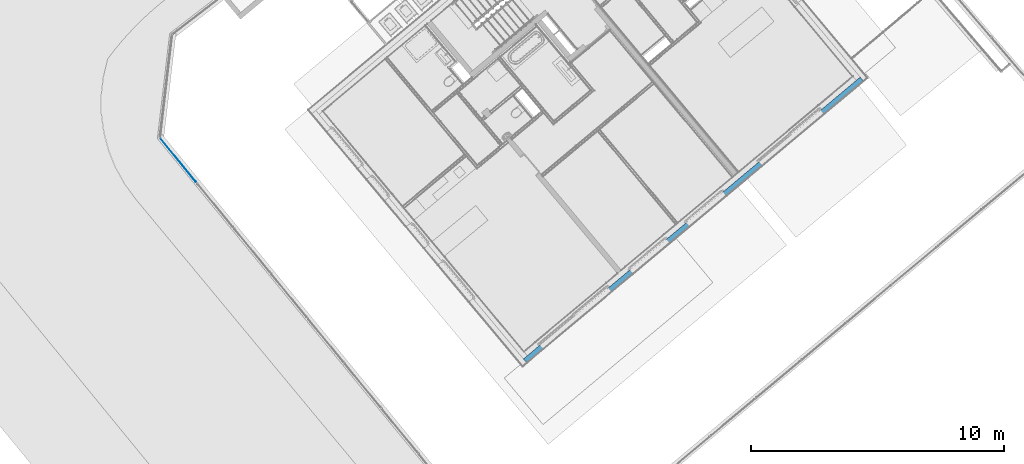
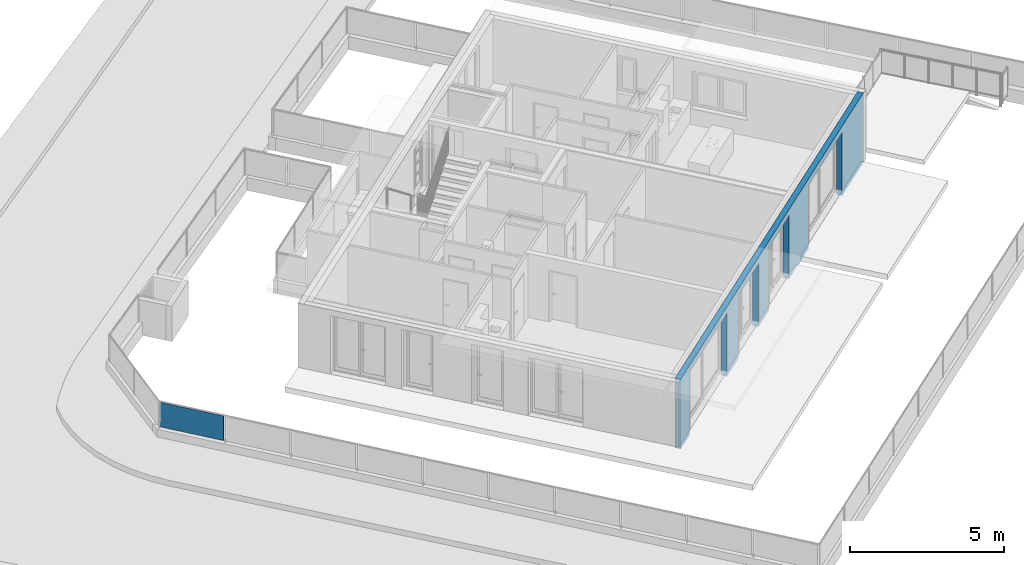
# One storey, part 26 of 75: 2 building element parts, 4 openings, 2 elements without a shape of their own.
"""IFC4 building model written with IfcOpenShell, lengths in metres."""

from ifc_helpers import new_model, entity, si_unit, converted_unit, derived_unit, direction, frame, origin_with_axes, place, context, subcontext, project, spatial, polygons, material, type_object, element, aggregate, save


model = new_model("IFC4")

# Units and contexts
model_context = context("Model", 3, precision=1e-05, world=origin_with_axes(), true_north=direction((0.0, 1.0)))
body_context = subcontext(model_context, "Body", "Model", "MODEL_VIEW")
ifc_project = project(units=[si_unit("LENGTHUNIT", "METRE"), si_unit("AREAUNIT", "SQUARE_METRE"), si_unit("VOLUMEUNIT", "CUBIC_METRE"), converted_unit("PLANEANGLEUNIT", "DEGREE", entity("IfcPlaneAngleMeasure", 0.0174532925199), si_unit("PLANEANGLEUNIT", "RADIAN"), dimensions=[0, 0, 0, 0, 0, 0, 0]), converted_unit("TIMEUNIT", "Year", entity("IfcTimeMeasure", 31556926.0), si_unit("TIMEUNIT", "SECOND"), dimensions=[0, 0, 1, 0, 0, 0, 0]), si_unit("MASSUNIT", "GRAM", prefix="KILO"), si_unit("THERMODYNAMICTEMPERATUREUNIT", "DEGREE_CELSIUS"), si_unit("LUMINOUSINTENSITYUNIT", "LUMEN"), si_unit("ENERGYUNIT", "JOULE", prefix="MEGA"), derived_unit("THERMALCONDUCTANCEUNIT", [(si_unit("POWERUNIT", "WATT"), 1), (si_unit("LENGTHUNIT", "METRE"), -1), (si_unit("THERMODYNAMICTEMPERATUREUNIT", "KELVIN"), -1)]), derived_unit("SPECIFICHEATCAPACITYUNIT", [(si_unit("ENERGYUNIT", "JOULE"), 1), (si_unit("MASSUNIT", "GRAM", prefix="KILO"), -1), (si_unit("THERMODYNAMICTEMPERATUREUNIT", "KELVIN"), -1)]), derived_unit("MASSDENSITYUNIT", [(si_unit("MASSUNIT", "GRAM", prefix="KILO"), 1), (si_unit("VOLUMEUNIT", "CUBIC_METRE"), -1)])], contexts=[model_context])

# Site, building, storey
site_placement = place(None, frame((-0.00153261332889, -0.00661245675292, 0.0), z_axis=(0.0, 0.0, 1.0), x_axis=(1.0, 0.0, 0.0)))
site = spatial("IfcSite", under=ifc_project, at=site_placement, Name="Gelände", CompositionType="ELEMENT")
building_placement = place(site_placement, origin_with_axes())
building = spatial("IfcBuilding", under=site, at=building_placement, Name="Gebäude", CompositionType="ELEMENT")
storey_placement = place(building_placement, frame((0.0, 0.0, -0.22), z_axis=(0.0, 0.0, 1.0), x_axis=(1.0, 0.0, 0.0)))
storey = spatial("IfcBuildingStorey", under=building, at=storey_placement, Name="EG", CompositionType="ELEMENT", Elevation=-0.22)

# Railing, building element part
railing_type = type_object("IfcRailingType", Name="Geländerart", PredefinedType="NOTDEFINED")
railing_placement = place(storey_placement, frame((-12.1608341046, 23.557810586, 0.523948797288), z_axis=(0.0, 0.0, 1.0), x_axis=(1.0, 0.0, 0.0)))
railing = element("IfcRailing", 1, at=railing_placement, inside=storey, type_object=railing_type, Name="Geländer - 001", PredefinedType="NOTDEFINED")
ifc_material_1 = material(Name="Zaun")
building_element_part_1_placement = place(railing_placement, origin_with_axes())
building_element_part_1 = element("IfcBuildingElementPart", 2, at=building_element_part_1_placement, material=ifc_material_1, Name="Zaun", PredefinedType="NOTDEFINED", context=body_context, shape_type="Tessellation", body=[
    polygons([(-0.936566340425, -7.37821512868, 0.05), (-2.32748216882, -5.67931828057, 0.05), (-2.32748216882, -5.67931828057, 1.03), (-0.936566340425, -7.37821512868, 1.03), (-2.34295725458, -5.69198799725, 0.05), (-0.952041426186, -7.39088484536, 0.05), (-2.34295725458, -5.69198799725, 1.03), (-0.952041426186, -7.39088484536, 1.03)], [[[1, 2, 3, 4]], [[5, 2, 1, 6]], [[7, 3, 2, 5]], [[4, 3, 7, 8]], [[1, 4, 8, 6]], [[7, 5, 6, 8]]], closed=True),
])
aggregate(railing, [building_element_part_1])

# Space
space_placement = place(storey_placement, frame((13.4528825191, 20.3252443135, 0.0), z_axis=(0.0, 0.0, 1.0), x_axis=(-0.766923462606, -0.641738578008, 0.0)))
space = spatial("IfcSpace", under=storey, at=space_placement, CompositionType="ELEMENT", PredefinedType="NOTDEFINED")

# Wall, openings, building element part
wall_type = type_object("IfcWallType", Name="AW EG 420", PredefinedType="NOTDEFINED")
wall_placement = place(space_placement, frame((0.0720764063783, 0.000238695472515, 0.0), z_axis=(0.0, 0.0, 1.0), x_axis=(0.999999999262, -3.84131433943e-05, 0.0)))
wall = element("IfcWall", 3, at=wall_placement, inside=space, type_object=wall_type, Name="Wand-002", PredefinedType="NOTDEFINED")
opening_1_placement = place(wall_placement, frame((14.9278241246, 0.0, 0.22), z_axis=(0.0, 0.0, 1.0), x_axis=(1.0, 0.0, 0.0)))
element("IfcOpeningElement", 4, at=opening_1_placement, cuts=wall, Name="Tür-001", context=body_context, identifier="Reference", shape_type="Tessellation", body=[
    polygons([(-1.76598893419, -0.215, -0.22), (-1.76598893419, -0.215, 2.31), (-1.76598893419, 8.73793494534, 2.31), (-1.76598893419, 8.73793494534, -0.22), (1.76598893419, -0.215, 2.31), (-1.81598893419, -0.215, -0.22), (-1.81598893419, -0.215, 2.36), (1.81598893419, -0.215, 2.36), (1.81598893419, -0.215, -0.22), (1.76598893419, -0.215, -0.22), (1.76598893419, 8.73793494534, 2.31), (1.76598893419, 8.73793494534, -0.22), (1.81598893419, -9.15793494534, -0.22), (-1.81598893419, -9.15793494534, -0.22), (-1.81598893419, -9.15793494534, 2.36), (1.81598893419, -9.15793494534, 2.36)], [[[1, 2, 3, 4]], [[5, 2, 1, 6, 7, 8, 9, 10]], [[2, 5, 11, 3]], [[11, 12, 4, 3]], [[1, 4, 12, 10, 9, 13, 14, 6]], [[7, 6, 14, 15]], [[8, 7, 15, 16]], [[9, 8, 16, 13]], [[5, 10, 12, 11]], [[15, 14, 13, 16]]], closed=True),
])
opening_2_placement = place(wall_placement, frame((3.83056216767, 0.0, 0.22), z_axis=(0.0, 0.0, 1.0), x_axis=(1.0, 0.0, 0.0)))
element("IfcOpeningElement", 5, at=opening_2_placement, cuts=wall, Name="Tür-001", context=body_context, identifier="Reference", shape_type="Tessellation", body=[
    polygons([(-1.59084421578, -0.215, -0.22), (-1.59084421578, -0.215, 2.31), (-1.59084421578, 8.73793494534, 2.31), (-1.59084421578, 8.73793494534, -0.22), (1.59084421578, -0.215, 2.31), (-1.64084421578, -0.215, -0.22), (-1.64084421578, -0.215, 2.36), (1.64084421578, -0.215, 2.36), (1.64084421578, -0.215, -0.22), (1.59084421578, -0.215, -0.22), (1.59084421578, 8.73793494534, 2.31), (1.59084421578, 8.73793494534, -0.22), (1.64084421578, -9.15793494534, -0.22), (-1.64084421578, -9.15793494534, -0.22), (-1.64084421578, -9.15793494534, 2.36), (1.64084421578, -9.15793494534, 2.36)], [[[1, 2, 3, 4]], [[5, 2, 1, 6, 7, 8, 9, 10]], [[2, 5, 11, 3]], [[11, 12, 4, 3]], [[1, 4, 12, 10, 9, 13, 14, 6]], [[7, 6, 14, 15]], [[8, 7, 15, 16]], [[9, 8, 16, 13]], [[5, 10, 12, 11]], [[15, 14, 13, 16]]], closed=True),
])
opening_3_placement = place(wall_placement, frame((11.1212452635, 0.0, 0.22), z_axis=(0.0, 0.0, 1.0), x_axis=(1.0, 0.0, 0.0)))
element("IfcOpeningElement", 6, at=opening_3_placement, cuts=wall, Name="Tür-002", context=body_context, identifier="Reference", shape_type="Tessellation", body=[
    polygons([(-0.95, -0.215, -0.22), (-0.95, -0.215, 2.31), (-0.95, 8.73793494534, 2.31), (-0.95, 8.73793494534, -0.22), (0.95, -0.215, 2.31), (-1.0, -0.215, -0.22), (-1.0, -0.215, 2.36), (1.0, -0.215, 2.36), (1.0, -0.215, -0.22), (0.95, -0.215, -0.22), (0.95, 8.73793494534, 2.31), (0.95, 8.73793494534, -0.22), (1.0, -9.15793494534, -0.22), (-1.0, -9.15793494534, -0.22), (-1.0, -9.15793494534, 2.36), (1.0, -9.15793494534, 2.36)], [[[1, 2, 3, 4]], [[5, 2, 1, 6, 7, 8, 9, 10]], [[2, 5, 11, 3]], [[11, 12, 4, 3]], [[1, 4, 12, 10, 9, 13, 14, 6]], [[7, 6, 14, 15]], [[8, 7, 15, 16]], [[9, 8, 16, 13]], [[5, 10, 12, 11]], [[15, 14, 13, 16]]], closed=True),
])
opening_4_placement = place(wall_placement, frame((8.21673950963, 0.0, 0.22), z_axis=(0.0, 0.0, 1.0), x_axis=(1.0, 0.0, 0.0)))
element("IfcOpeningElement", 7, at=opening_4_placement, cuts=wall, Name="Tür-002", context=body_context, identifier="Reference", shape_type="Tessellation", body=[
    polygons([(-0.95, -0.215, -0.22), (-0.95, -0.215, 2.31), (-0.95, 8.73793494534, 2.31), (-0.95, 8.73793494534, -0.22), (0.95, -0.215, 2.31), (-1.0, -0.215, -0.22), (-1.0, -0.215, 2.36), (1.0, -0.215, 2.36), (1.0, -0.215, -0.22), (0.95, -0.215, -0.22), (0.95, 8.73793494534, 2.31), (0.95, 8.73793494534, -0.22), (1.0, -9.15793494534, -0.22), (-1.0, -9.15793494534, -0.22), (-1.0, -9.15793494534, 2.36), (1.0, -9.15793494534, 2.36)], [[[1, 2, 3, 4]], [[5, 2, 1, 6, 7, 8, 9, 10]], [[2, 5, 11, 3]], [[11, 12, 4, 3]], [[1, 4, 12, 10, 9, 13, 14, 6]], [[7, 6, 14, 15]], [[8, 7, 15, 16]], [[9, 8, 16, 13]], [[5, 10, 12, 11]], [[15, 14, 13, 16]]], closed=True),
])
ifc_material_2 = material(Name="EPS 1")
building_element_part_2_placement = place(wall_placement, origin_with_axes())
building_element_part_2 = element("IfcBuildingElementPart", 8, at=building_element_part_2_placement, material=ifc_material_2, Name="EPS 1", PredefinedType="NOTDEFINED", context=body_context, shape_type="Tessellation", body=[
    polygons([(9.16673950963, -0.015, 0.0), (9.16673950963, -0.015, 2.53), (7.26673950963, -0.015, 2.53), (7.26673950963, -0.015, 0.0), (5.42140638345, -0.015, 0.0), (5.42140638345, -0.015, 2.53), (2.23971795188, -0.015, 2.53), (2.23971795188, -0.015, 0.0), (0.214990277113, -0.015, 0.0), (0.214990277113, -0.015, 2.76), (17.5373016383, -0.015, 2.76), (17.5373016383, -0.015, 0.0), (16.6938130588, -0.015, 0.0), (16.6938130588, -0.015, 2.53), (13.1618351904, -0.015, 2.53), (13.1618351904, -0.015, 0.0), (12.0712452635, -0.015, 0.0), (12.0712452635, -0.015, 2.53), (10.1712452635, -0.015, 2.53), (10.1712452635, -0.015, 0.0), (9.16673950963, -0.215, 0.0), (9.16673950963, -0.215, 2.53), (7.26673950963, -0.215, 2.53), (7.26673950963, -0.215, 0.0), (5.42140638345, -0.215, 0.0), (5.42140638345, -0.215, 2.53), (2.23971795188, -0.215, 2.53), (2.23971795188, -0.215, 0.0), (0.214860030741, -0.215, 0.0), (0.214860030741, -0.215, 2.76), (17.5371713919, -0.215, 2.76), (17.5371713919, -0.215, 0.0), (16.6938130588, -0.215, 0.0), (16.6938130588, -0.215, 2.53), (13.1618351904, -0.215, 2.53), (13.1618351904, -0.215, 0.0), (12.0712452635, -0.215, 0.0), (12.0712452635, -0.215, 2.53), (10.1712452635, -0.215, 2.53), (10.1712452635, -0.215, 0.0)], [[[1, 2, 3, 4, 5, 6, 7, 8, 9, 10, 11, 12, 13, 14, 15, 16, 17, 18, 19, 20]], [[2, 1, 21, 22]], [[3, 2, 22, 23]], [[4, 3, 23, 24]], [[4, 24, 25, 5]], [[25, 26, 6, 5]], [[26, 27, 7, 6]], [[27, 28, 8, 7]], [[29, 9, 8, 28]], [[29, 30, 10, 9]], [[31, 11, 10, 30]], [[11, 31, 32, 12]], [[32, 33, 13, 12]], [[34, 14, 13, 33]], [[35, 15, 14, 34]], [[36, 16, 15, 35]], [[17, 16, 36, 37]], [[17, 37, 38, 18]], [[18, 38, 39, 19]], [[19, 39, 40, 20]], [[21, 1, 20, 40]], [[22, 21, 40, 39, 38, 37, 36, 35, 34, 33, 32, 31, 30, 29, 28, 27, 26, 25, 24, 23]]], closed=True),
])
aggregate(wall, [building_element_part_2])

save(model, "model.ifc")
